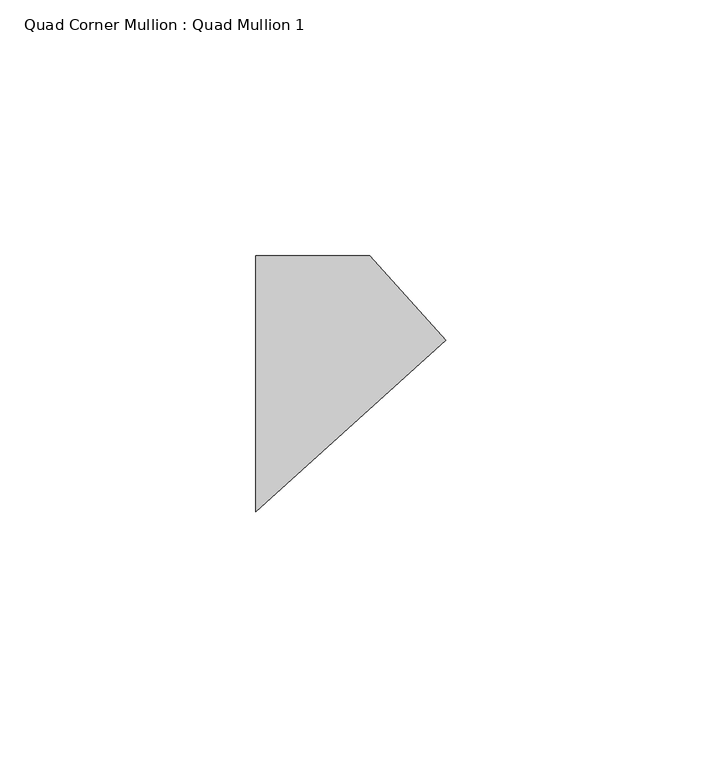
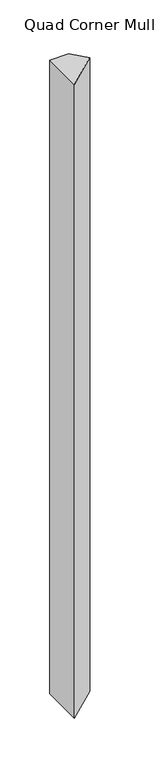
"""IFC4 building model written with IfcOpenShell, lengths in millimetres: member geometry, Quad Corner Mullion : Quad Mullion 1."""

from ifc_helpers import new_model, si_unit, frame, origin, place, context, project, spatial, polyline, outline, extrude, source, transform, mapped, element, save


def quad_corner_mullion_quad_mullion_1_161b38b6(model_context):
    return source(origin(), model_context, "Body", "SweptSolid", [
        extrude(outline(polyline([(26.0265241, 8.4565303), (-11.1307171, -25.0), (-11.1307171, 25.0), (11.1307171, 25.0), (26.0265241, 8.4565303)])), frame((0.0, 0.0, -780.0), z_axis=(0.0, 0.0, 1.0), x_axis=(1.0, 0.0, 0.0)), (0.0, 0.0, 1.0), 780.0),
    ])


if __name__ == "__main__":
    model = new_model("IFC4")
    model_context = context("Model", 3, world=origin())
    ifc_project = project(units=[si_unit("LENGTHUNIT", "METRE", prefix="MILLI")], contexts=[model_context])
    site = spatial("IfcSite", under=ifc_project)
    building = spatial("IfcBuilding", under=site)
    placement = place(None, origin())
    quad_corner_mullion_quad_mullion_1_shape = quad_corner_mullion_quad_mullion_1_161b38b6(model_context)
    element("IfcMember", 1, ObjectType="Quad Corner Mullion : Quad Mullion 1", at=placement, inside=building, context=model_context, shape_type="MappedRepresentation", body=[
        mapped(quad_corner_mullion_quad_mullion_1_shape, transform((0.0, 0.0, 0.0), x_axis=(1.0, 0.0, 0.0), y_axis=(0.0, 1.0, 0.0), z_axis=(0.0, 0.0, 1.0))),
    ])
    save(model, "model.ifc")
